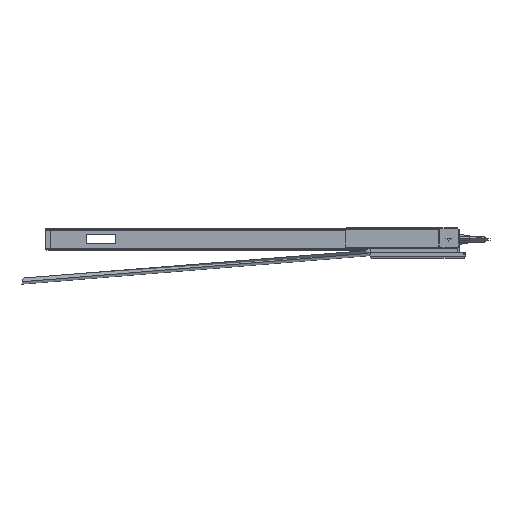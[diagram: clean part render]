
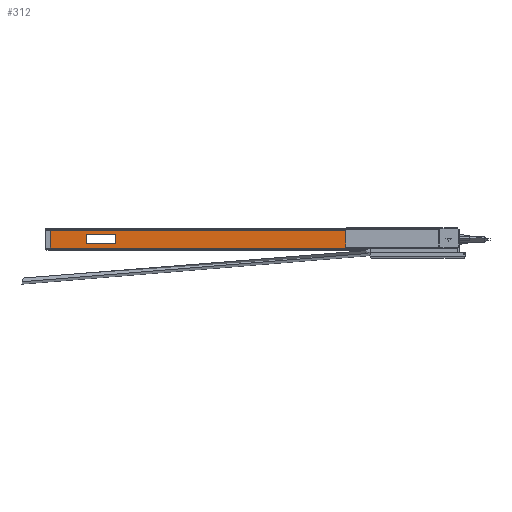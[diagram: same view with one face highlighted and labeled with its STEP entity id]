
A CAD part, top view. The second image highlights one B-rep face of the part: STEP entity #312.
In plain terms, the highlighted planar face has unit normal (0, 0, 1).
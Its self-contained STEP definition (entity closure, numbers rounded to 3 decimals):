
#133=FACE_BOUND('',#760,.T.);
#134=FACE_BOUND('',#761,.T.);
#312=ADVANCED_FACE('',(#535,#133,#134),#3950,.T.);
#535=FACE_OUTER_BOUND('',#759,.T.);
#759=EDGE_LOOP('',(#1145,#1146,#1147,#1148));
#760=EDGE_LOOP('',(#1149,#1150,#1151,#1152));
#761=EDGE_LOOP('',(#1153,#1154,#1155,#1156));
#1145=ORIENTED_EDGE('',*,*,#2270,.F.);
#1146=ORIENTED_EDGE('',*,*,#2238,.F.);
#1147=ORIENTED_EDGE('',*,*,#2256,.T.);
#1148=ORIENTED_EDGE('',*,*,#2242,.F.);
#1149=ORIENTED_EDGE('',*,*,#2293,.F.);
#1150=ORIENTED_EDGE('',*,*,#2271,.F.);
#1151=ORIENTED_EDGE('',*,*,#2302,.F.);
#1152=ORIENTED_EDGE('',*,*,#2272,.F.);
#1153=ORIENTED_EDGE('',*,*,#2306,.F.);
#1154=ORIENTED_EDGE('',*,*,#2273,.F.);
#1155=ORIENTED_EDGE('',*,*,#2314,.F.);
#1156=ORIENTED_EDGE('',*,*,#2274,.F.);
#2238=EDGE_CURVE('',#3432,#3433,#3054,.T.);
#2242=EDGE_CURVE('',#3438,#3439,#3057,.T.);
#2256=EDGE_CURVE('',#3432,#3439,#3067,.T.);
#2270=EDGE_CURVE('',#3433,#3438,#3078,.T.);
#2271=EDGE_CURVE('',#3466,#3464,#3079,.T.);
#2272=EDGE_CURVE('',#3465,#3467,#3080,.T.);
#2273=EDGE_CURVE('',#3470,#3468,#3081,.T.);
#2274=EDGE_CURVE('',#3469,#3471,#3082,.T.);
#2293=EDGE_CURVE('',#3464,#3465,#2813,.T.);
#2302=EDGE_CURVE('',#3467,#3466,#2817,.T.);
#2306=EDGE_CURVE('',#3468,#3469,#2820,.T.);
#2314=EDGE_CURVE('',#3471,#3470,#2824,.T.);
#2813=(
BOUNDED_CURVE()
B_SPLINE_CURVE(2,(#5353,#5354,#5355,#5356,#5357),.UNSPECIFIED.,.F.,.F.)
B_SPLINE_CURVE_WITH_KNOTS((3,2,3),(0.,10.996,21.991),
 .UNSPECIFIED.)
CURVE()
GEOMETRIC_REPRESENTATION_ITEM()
RATIONAL_B_SPLINE_CURVE((1.,0.707,1.,0.707,1.))
REPRESENTATION_ITEM('')
);
#2817=(
BOUNDED_CURVE()
B_SPLINE_CURVE(2,(#5383,#5384,#5385,#5386,#5387),.UNSPECIFIED.,.F.,.F.)
B_SPLINE_CURVE_WITH_KNOTS((3,2,3),(0.,10.996,21.991),
 .UNSPECIFIED.)
CURVE()
GEOMETRIC_REPRESENTATION_ITEM()
RATIONAL_B_SPLINE_CURVE((1.,0.707,1.,0.707,1.))
REPRESENTATION_ITEM('')
);
#2820=(
BOUNDED_CURVE()
B_SPLINE_CURVE(2,(#5400,#5401,#5402,#5403,#5404),.UNSPECIFIED.,.F.,.F.)
B_SPLINE_CURVE_WITH_KNOTS((3,2,3),(0.,0.5,1.),.UNSPECIFIED.)
CURVE()
GEOMETRIC_REPRESENTATION_ITEM()
RATIONAL_B_SPLINE_CURVE((1.,0.707,1.,0.707,1.))
REPRESENTATION_ITEM('')
);
#2824=(
BOUNDED_CURVE()
B_SPLINE_CURVE(2,(#5428,#5429,#5430,#5431,#5432),.UNSPECIFIED.,.F.,.F.)
B_SPLINE_CURVE_WITH_KNOTS((3,2,3),(0.,0.5,1.),
 .UNSPECIFIED.)
CURVE()
GEOMETRIC_REPRESENTATION_ITEM()
RATIONAL_B_SPLINE_CURVE((1.,0.707,1.,0.707,1.))
REPRESENTATION_ITEM('')
);
#3054=B_SPLINE_CURVE_WITH_KNOTS('',1,(#5232,#5233),.UNSPECIFIED.,.F.,.F.,
(2,2),(0.,563.902),.UNSPECIFIED.);
#3057=B_SPLINE_CURVE_WITH_KNOTS('',1,(#5241,#5242),.UNSPECIFIED.,.F.,.F.,
(2,2),(0.,563.902),.UNSPECIFIED.);
#3067=B_SPLINE_CURVE_WITH_KNOTS('',1,(#5273,#5274),.UNSPECIFIED.,.F.,.F.,
(2,2),(-26.,0.),.UNSPECIFIED.);
#3078=B_SPLINE_CURVE_WITH_KNOTS('',1,(#5304,#5305),.UNSPECIFIED.,.F.,.F.,
(2,2),(-26.,0.),.UNSPECIFIED.);
#3079=B_SPLINE_CURVE_WITH_KNOTS('',1,(#5306,#5307),.UNSPECIFIED.,.F.,.F.,
(2,2),(-41.,0.),.UNSPECIFIED.);
#3080=B_SPLINE_CURVE_WITH_KNOTS('',1,(#5308,#5309),.UNSPECIFIED.,.F.,.F.,
(2,2),(-41.,0.),.UNSPECIFIED.);
#3081=B_SPLINE_CURVE_WITH_KNOTS('',1,(#5310,#5311),.UNSPECIFIED.,.F.,.F.,
(2,2),(-41.,0.),.UNSPECIFIED.);
#3082=B_SPLINE_CURVE_WITH_KNOTS('',1,(#5312,#5313),.UNSPECIFIED.,.F.,.F.,
(2,2),(-41.,0.),.UNSPECIFIED.);
#3432=VERTEX_POINT('',#5168);
#3433=VERTEX_POINT('',#5169);
#3438=VERTEX_POINT('',#5174);
#3439=VERTEX_POINT('',#5175);
#3464=VERTEX_POINT('',#5200);
#3465=VERTEX_POINT('',#5201);
#3466=VERTEX_POINT('',#5202);
#3467=VERTEX_POINT('',#5203);
#3468=VERTEX_POINT('',#5204);
#3469=VERTEX_POINT('',#5205);
#3470=VERTEX_POINT('',#5206);
#3471=VERTEX_POINT('',#5207);
#3950=PLANE('',#4069);
#4069=AXIS2_PLACEMENT_3D('',#5043,#4172,$);
#4172=DIRECTION('',(0.,0.,1.));
#5043=CARTESIAN_POINT('',(-3778.617,-165.284,280.223));
#5168=CARTESIAN_POINT('',(-3158.312,-162.672,280.002));
#5169=CARTESIAN_POINT('',(-3722.215,-162.672,280.203));
#5174=CARTESIAN_POINT('',(-3722.215,-136.672,280.212));
#5175=CARTESIAN_POINT('',(-3158.312,-136.672,280.01));
#5200=CARTESIAN_POINT('',(-3669.312,-142.672,280.191));
#5201=CARTESIAN_POINT('',(-3669.312,-156.672,280.186));
#5202=CARTESIAN_POINT('',(-3628.312,-142.672,280.176));
#5203=CARTESIAN_POINT('',(-3628.312,-156.672,280.172));
#5204=CARTESIAN_POINT('',(-3239.312,-142.672,280.037));
#5205=CARTESIAN_POINT('',(-3239.312,-156.672,280.032));
#5206=CARTESIAN_POINT('',(-3198.312,-142.672,280.023));
#5207=CARTESIAN_POINT('',(-3198.312,-156.672,280.018));
#5232=CARTESIAN_POINT('',(-3158.312,-162.672,280.002));
#5233=CARTESIAN_POINT('',(-3722.215,-162.672,280.203));
#5241=CARTESIAN_POINT('',(-3722.215,-136.672,280.212));
#5242=CARTESIAN_POINT('',(-3158.312,-136.672,280.01));
#5273=CARTESIAN_POINT('',(-3158.312,-162.672,280.002));
#5274=CARTESIAN_POINT('',(-3158.312,-136.672,280.01));
#5304=CARTESIAN_POINT('',(-3722.215,-162.672,280.203));
#5305=CARTESIAN_POINT('',(-3722.215,-136.672,280.212));
#5306=CARTESIAN_POINT('',(-3628.312,-142.672,280.176));
#5307=CARTESIAN_POINT('',(-3669.312,-142.672,280.191));
#5308=CARTESIAN_POINT('',(-3669.312,-156.672,280.186));
#5309=CARTESIAN_POINT('',(-3628.312,-156.672,280.172));
#5310=CARTESIAN_POINT('',(-3198.312,-142.672,280.023));
#5311=CARTESIAN_POINT('',(-3239.312,-142.672,280.037));
#5312=CARTESIAN_POINT('',(-3239.312,-156.672,280.032));
#5313=CARTESIAN_POINT('',(-3198.312,-156.672,280.018));
#5353=CARTESIAN_POINT('',(-3669.312,-142.672,280.191));
#5354=CARTESIAN_POINT('',(-3676.312,-142.672,280.193));
#5355=CARTESIAN_POINT('',(-3676.312,-149.672,280.191));
#5356=CARTESIAN_POINT('',(-3676.312,-156.672,280.189));
#5357=CARTESIAN_POINT('',(-3669.312,-156.672,280.186));
#5383=CARTESIAN_POINT('',(-3628.312,-156.672,280.172));
#5384=CARTESIAN_POINT('',(-3621.312,-156.672,280.169));
#5385=CARTESIAN_POINT('',(-3621.312,-149.672,280.171));
#5386=CARTESIAN_POINT('',(-3621.312,-142.672,280.174));
#5387=CARTESIAN_POINT('',(-3628.312,-142.672,280.176));
#5400=CARTESIAN_POINT('',(-3239.312,-142.672,280.037));
#5401=CARTESIAN_POINT('',(-3246.312,-142.672,280.04));
#5402=CARTESIAN_POINT('',(-3246.312,-149.672,280.037));
#5403=CARTESIAN_POINT('',(-3246.312,-156.672,280.035));
#5404=CARTESIAN_POINT('',(-3239.312,-156.672,280.032));
#5428=CARTESIAN_POINT('',(-3198.312,-156.672,280.018));
#5429=CARTESIAN_POINT('',(-3191.312,-156.672,280.015));
#5430=CARTESIAN_POINT('',(-3191.312,-149.672,280.018));
#5431=CARTESIAN_POINT('',(-3191.312,-142.672,280.02));
#5432=CARTESIAN_POINT('',(-3198.312,-142.672,280.023));
